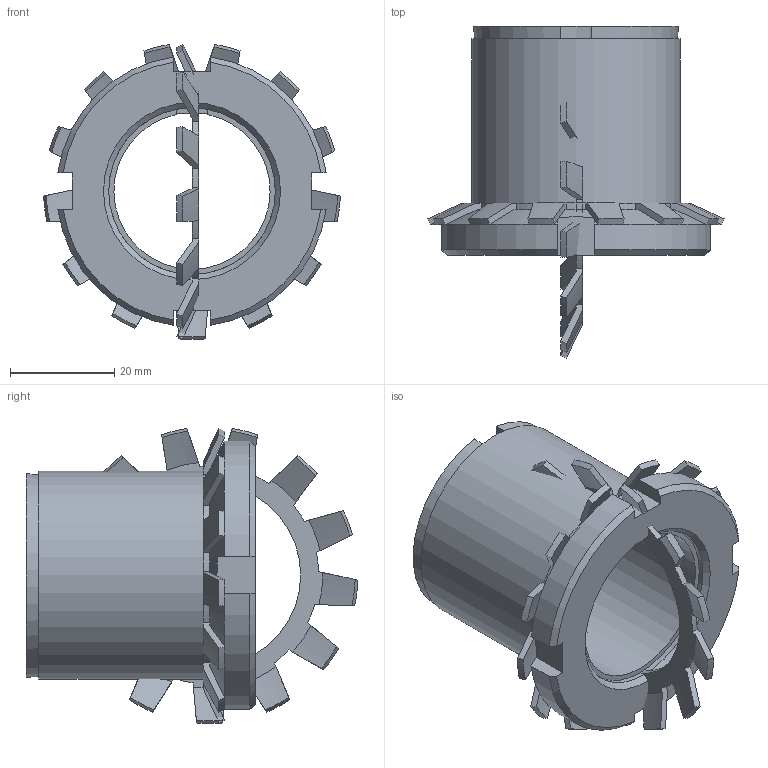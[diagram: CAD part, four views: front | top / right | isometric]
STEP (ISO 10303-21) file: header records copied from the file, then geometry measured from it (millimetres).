
FILE_DESCRIPTION( ( 'Unknown' ), '1' );
FILE_NAME( 'C:/Dokumente und Einstellungen/Sven/Desktop/homepage/cad - homepage/KBS55/KBS 55 - 30 x 40.stp', 'Unknown', ( 'Unknown' ), ( 'Unknown' ), 'XStep 1.0', 'Unknown', ' ' );
FILE_SCHEMA( ( 'automotive_design' ) );
Length unit declared in the file: millimetre
Products named in the file (3): Assem1; KBS 55 - 30 x 40; 08570079_locking_plate_din_5406_mb_7_2_14a
Bounding box: 56.97 x 63.73 x 56.65 mm (x, y, z)
Volume: 60146.9 mm3; surface area: 30323.3 mm2
Topology: 4 solids, 4 shells, 240 faces, 688 edges, 456 vertices
Faces by surface type: plane 104, cone 94, cylinder 42
Full cylindrical faces by diameter (mm): 32 x2, 40 x2
Entity records: 4296 total; most frequent: CARTESIAN_POINT 907, ORIENTED_EDGE 676, DIRECTION 640, EDGE_CURVE 338, AXIS2_PLACEMENT_3D 253, VERTEX_POINT 226, LINE 134, VECTOR 134
